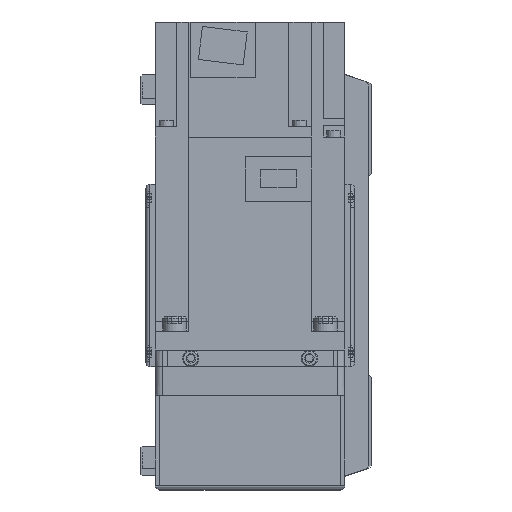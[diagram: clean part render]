
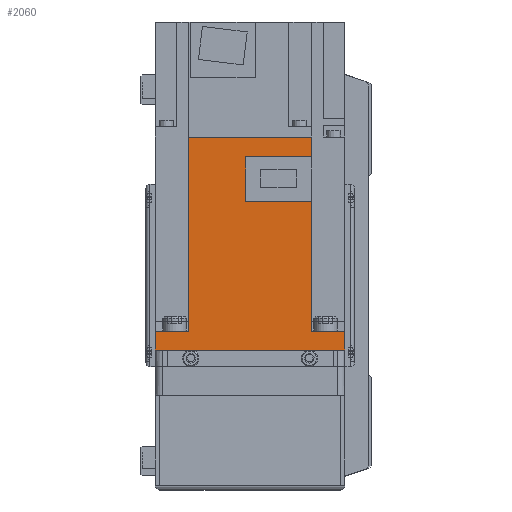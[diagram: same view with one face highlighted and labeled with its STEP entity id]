
A CAD part, left-side view. The second image highlights one B-rep face of the part: STEP entity #2060.
In plain terms, the highlighted planar face has unit normal (-1, 0, 0) as drawn and (1, 0, 0) by its records, which use the part's own axes.
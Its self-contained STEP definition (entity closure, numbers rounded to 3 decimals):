
#2060 = ADVANCED_FACE( '', ( #4936 ), #4937, .F. );
#4936 = FACE_OUTER_BOUND( '', #8802, .T. );
#4937 = PLANE( '', #8803 );
#8802 = EDGE_LOOP( '', ( #14575, #14576, #14577, #14578, #14579, #14580, #14581, #14582, #14583, #14584, #14585, #14586 ) );
#8803 = AXIS2_PLACEMENT_3D( '', #14587, #14588, #14589 );
#14575 = ORIENTED_EDGE( '', *, *, #22654, .F. );
#14576 = ORIENTED_EDGE( '', *, *, #23127, .F. );
#14577 = ORIENTED_EDGE( '', *, *, #23299, .F. );
#14578 = ORIENTED_EDGE( '', *, *, #23300, .T. );
#14579 = ORIENTED_EDGE( '', *, *, #23301, .F. );
#14580 = ORIENTED_EDGE( '', *, *, #21609, .T. );
#14581 = ORIENTED_EDGE( '', *, *, #21785, .T. );
#14582 = ORIENTED_EDGE( '', *, *, #23302, .F. );
#14583 = ORIENTED_EDGE( '', *, *, #23303, .F. );
#14584 = ORIENTED_EDGE( '', *, *, #23129, .F. );
#14585 = ORIENTED_EDGE( '', *, *, #23304, .F. );
#14586 = ORIENTED_EDGE( '', *, *, #23305, .F. );
#14587 = CARTESIAN_POINT( '', ( 40., 89.8, 40. ) );
#14588 = DIRECTION( '', ( -1., 0., 0. ) );
#14589 = DIRECTION( '', ( 0., 0., 1. ) );
#21609 = EDGE_CURVE( '', #25609, #25607, #25610, .T. );
#21785 = EDGE_CURVE( '', #25607, #25917, #25919, .T. );
#22654 = EDGE_CURVE( '', #27401, #27403, #27404, .T. );
#23127 = EDGE_CURVE( '', #28172, #27401, #28174, .T. );
#23129 = EDGE_CURVE( '', #28175, #28177, #28178, .T. );
#23299 = EDGE_CURVE( '', #28441, #28172, #28442, .T. );
#23300 = EDGE_CURVE( '', #28441, #28443, #28444, .T. );
#23301 = EDGE_CURVE( '', #25609, #28443, #28445, .T. );
#23302 = EDGE_CURVE( '', #28446, #25917, #28447, .T. );
#23303 = EDGE_CURVE( '', #28177, #28446, #28448, .T. );
#23304 = EDGE_CURVE( '', #28449, #28175, #28450, .T. );
#23305 = EDGE_CURVE( '', #27403, #28449, #28451, .T. );
#25607 = VERTEX_POINT( '', #31491 );
#25609 = VERTEX_POINT( '', #31494 );
#25610 = LINE( '', #31495, #31496 );
#25917 = VERTEX_POINT( '', #31956 );
#25919 = LINE( '', #31959, #31960 );
#27401 = VERTEX_POINT( '', #34340 );
#27403 = VERTEX_POINT( '', #34343 );
#27404 = LINE( '', #34344, #34345 );
#28172 = VERTEX_POINT( '', #35527 );
#28174 = LINE( '', #35530, #35531 );
#28175 = VERTEX_POINT( '', #35532 );
#28177 = VERTEX_POINT( '', #35535 );
#28178 = LINE( '', #35536, #35537 );
#28441 = VERTEX_POINT( '', #35941 );
#28442 = LINE( '', #35942, #35943 );
#28443 = VERTEX_POINT( '', #35944 );
#28444 = LINE( '', #35945, #35946 );
#28445 = LINE( '', #35947, #35948 );
#28446 = VERTEX_POINT( '', #35949 );
#28447 = LINE( '', #35950, #35951 );
#28448 = LINE( '', #35952, #35953 );
#28449 = VERTEX_POINT( '', #35954 );
#28450 = LINE( '', #35955, #35956 );
#28451 = LINE( '', #35957, #35958 );
#31491 = CARTESIAN_POINT( '', ( 40., 0., 40. ) );
#31494 = CARTESIAN_POINT( '', ( 40., 8., 40. ) );
#31495 = CARTESIAN_POINT( '', ( 40., 89.8, 40. ) );
#31496 = VECTOR( '', #40666, 1000. );
#31956 = CARTESIAN_POINT( '', ( 40., 0., -40. ) );
#31959 = CARTESIAN_POINT( '', ( 40., 0., 40. ) );
#31960 = VECTOR( '', #40900, 1000. );
#34340 = CARTESIAN_POINT( '', ( 40., 81.4, -25.95 ) );
#34343 = CARTESIAN_POINT( '', ( 40., 81.4, 1.8 ) );
#34344 = CARTESIAN_POINT( '', ( 40., 81.4, -26. ) );
#34345 = VECTOR( '', #41999, 1000. );
#35527 = CARTESIAN_POINT( '', ( 40., 89.8, -25.95 ) );
#35530 = CARTESIAN_POINT( '', ( 40., 158., -25.95 ) );
#35531 = VECTOR( '', #42596, 1000. );
#35532 = CARTESIAN_POINT( '', ( 40., 62.8, -25.95 ) );
#35535 = CARTESIAN_POINT( '', ( 40., 8., -25.95 ) );
#35536 = CARTESIAN_POINT( '', ( 40., 158., -25.95 ) );
#35537 = VECTOR( '', #42598, 1000. );
#35941 = CARTESIAN_POINT( '', ( 40., 89.8, 25.95 ) );
#35942 = CARTESIAN_POINT( '', ( 40., 89.8, 40. ) );
#35943 = VECTOR( '', #42790, 1000. );
#35944 = CARTESIAN_POINT( '', ( 40., 8., 25.95 ) );
#35945 = CARTESIAN_POINT( '', ( 40., 158., 25.95 ) );
#35946 = VECTOR( '', #42791, 1000. );
#35947 = CARTESIAN_POINT( '', ( 40., 8., 40. ) );
#35948 = VECTOR( '', #42792, 1000. );
#35949 = CARTESIAN_POINT( '', ( 40., 8., -40. ) );
#35950 = CARTESIAN_POINT( '', ( 40., 89.8, -40. ) );
#35951 = VECTOR( '', #42793, 1000. );
#35952 = CARTESIAN_POINT( '', ( 40., 8., 40. ) );
#35953 = VECTOR( '', #42794, 1000. );
#35954 = CARTESIAN_POINT( '', ( 40., 62.8, 1.8 ) );
#35955 = CARTESIAN_POINT( '', ( 40., 62.8, 1.8 ) );
#35956 = VECTOR( '', #42795, 1000. );
#35957 = CARTESIAN_POINT( '', ( 40., 81.4, 1.8 ) );
#35958 = VECTOR( '', #42796, 1000. );
#40666 = DIRECTION( '', ( 0., -1., 0. ) );
#40900 = DIRECTION( '', ( 0., 0., -1. ) );
#41999 = DIRECTION( '', ( 0., 0., 1. ) );
#42596 = DIRECTION( '', ( 0., -1., 0. ) );
#42598 = DIRECTION( '', ( 0., -1., 0. ) );
#42790 = DIRECTION( '', ( 0., 0., -1. ) );
#42791 = DIRECTION( '', ( 0., -1., 0. ) );
#42792 = DIRECTION( '', ( 0., 0., -1. ) );
#42793 = DIRECTION( '', ( 0., -1., 0. ) );
#42794 = DIRECTION( '', ( 0., 0., -1. ) );
#42795 = DIRECTION( '', ( 0., 0., -1. ) );
#42796 = DIRECTION( '', ( 0., -1., 0. ) );
